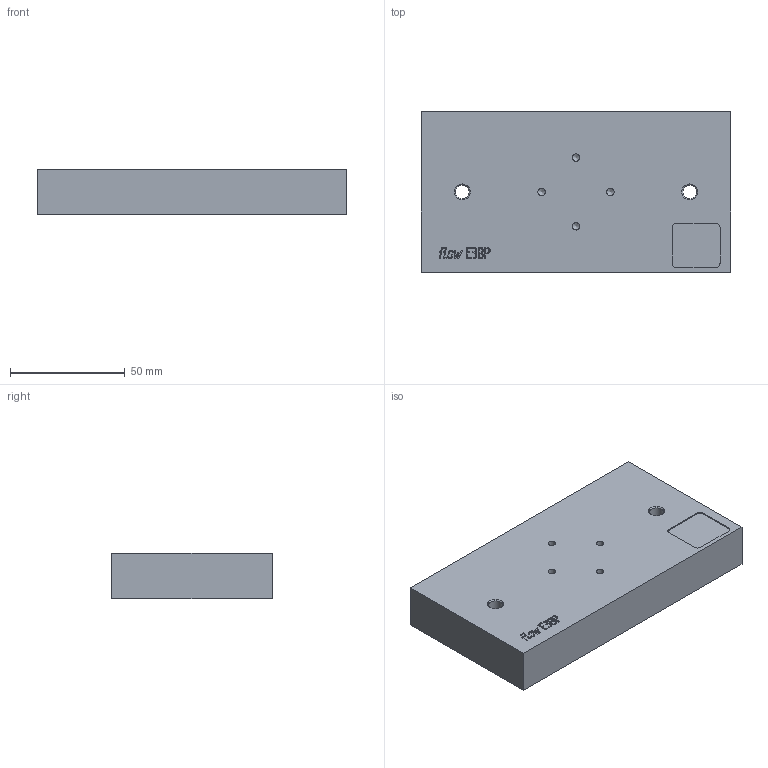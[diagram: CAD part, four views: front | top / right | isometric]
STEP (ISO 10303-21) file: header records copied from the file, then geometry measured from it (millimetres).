
FILE_DESCRIPTION(/* description */ ('Unknown','CAx-IF Rec.Pracs.---Representation and Presentation of Product Manufacturing Information (PMI)---4.0---2014-10-13','CAx-IF Rec.Pracs.---3D Tessellated Geometry---0.4---2014-09-14','2;1'),/* implementation_level */ '2;1');
FILE_NAME(/* name */ 'flowE3BP-0F-TIM',/* time_stamp */ '2026-01-13T17:05:02+01:00',/* author */ ('Unknown'),/* organization */ ('Unknown'),/* preprocessor_version */ 'ST-DEVELOPER v20',/* originating_system */ 'Solid Edge',/* authorisation */ 'Unknown');
FILE_SCHEMA (('AP242_MANAGED_MODEL_BASED_3D_ENGINEERING_MIM_LF { 1 0 10303 442 1 1 4 }'));
Length unit declared in the file: millimetre
Products named in the file (1): flowE3BP-0F-TIM
Bounding box: 135 x 70 x 19.8 mm (x, y, z)
Volume: 183037.6 mm3; surface area: 28650.9 mm2
Topology: 1 solids, 1 shells, 1148 faces, 1862 edges, 1238 vertices
Faces by surface type: plane 588, cylinder 530, bspline 22, cone 8
Full cylindrical faces by diameter (mm): 0.6 x510, 3.242 x8, 6 x2
Entity records: 32980 total; most frequent: CARTESIAN_POINT 4896, DIRECTION 4496, ORIENTED_EDGE 2640, FACE_BOUND 2208, EDGE_LOOP 2204, AXIS2_PLACEMENT_3D 2188, EDGE_CURVE 1320, VERTEX_POINT 1230
